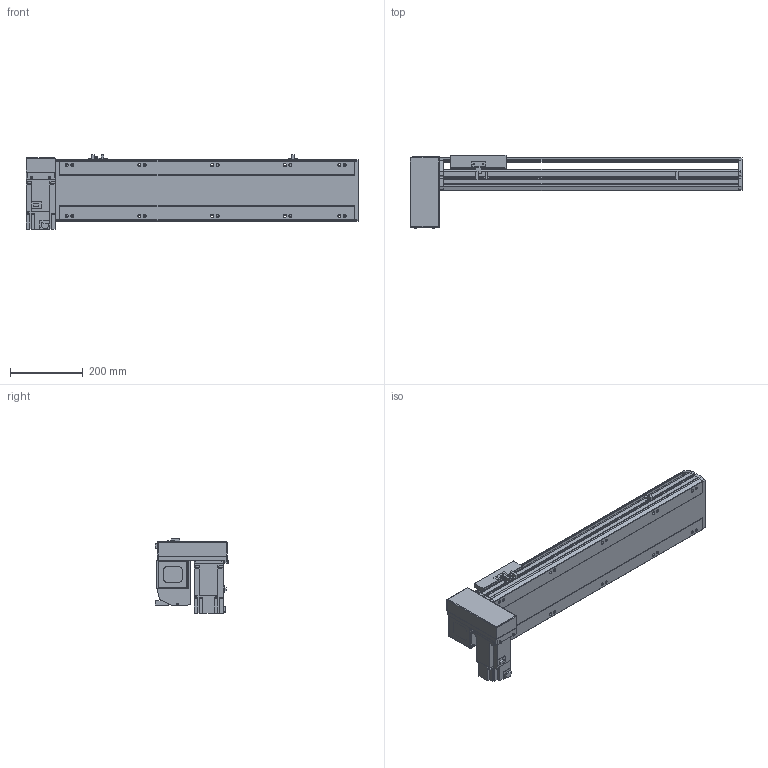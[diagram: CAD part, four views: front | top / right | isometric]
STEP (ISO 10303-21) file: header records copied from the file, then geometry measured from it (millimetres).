
FILE_DESCRIPTION(/* description */ ('STEP AP214'),/* implementation_level */ '2;1');
FILE_NAME(/* name */ 'PBS170-P40-S550-RD-T75-C1-N(0)',/* time_stamp */ '2022-06-08T07:34:30+02:00',/* author */ ('License CC BY-ND 4.0'),/* organization */ ('CADENAS'),/* preprocessor_version */ 'ST-DEVELOPER v18.102',/* originating_system */ 'PARTsolutions',/* authorisation */ ' ');
FILE_SCHEMA (('AUTOMOTIVE_DESIGN {1 0 10303 214 3 1 1}'));
Length unit declared in the file: millimetre
Products named in the file (7): PBS170-P40-S550-RD-T75-C1-N(0); PBS170_sensor; PBS170_plant; PBS170_sliser; T75-p1; PBS170T-RD_motors; PBS170-S550()_body
Assembly tree (8 placements, depth 2):
  PBS170-P40-S550-RD-T75-C1-N(0)
    PBS170_sensor  x3
    PBS170_plant
    PBS170_sliser
    T75-p1
    PBS170T-RD_motors
    PBS170-S550()_body
Bounding box: 913 x 201 x 205.3 mm (x, y, z)
Volume: 7784619.3 mm3; surface area: 1053094.7 mm2
Topology: 8 solids, 8 shells, 1034 faces, 2755 edges, 1796 vertices
Faces by surface type: plane 669, cylinder 315, cone 40, sphere 8, torus 2
Full cylindrical faces by diameter (mm): 3.242 x4, 4 x2, 4.4 x4, 4.5 x6, 4.917 x4, 6 x9, 6.647 x18, 7 x2, 7.5 x4, 8 x8, 8.5 x10, 10 x4, 10.5 x10, 11 x2, 30 x2, 40 x1, 70 x1
Entity records: 29744 total; most frequent: CARTESIAN_POINT 5377, DIRECTION 5090, ORIENTED_EDGE 4848, EDGE_CURVE 2424, AXIS2_PLACEMENT_3D 1747, VERTEX_POINT 1658, LINE 1596, VECTOR 1596
